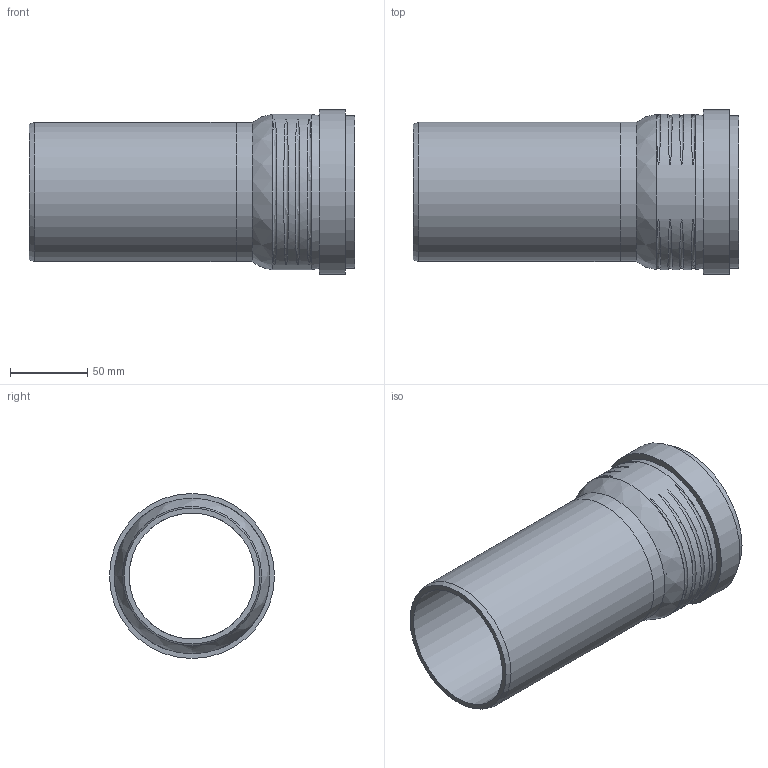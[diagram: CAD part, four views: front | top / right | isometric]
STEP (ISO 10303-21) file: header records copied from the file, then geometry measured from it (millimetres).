
FILE_DESCRIPTION(/* description */ (''),/* implementation_level */ '2;1');
FILE_NAME(/* name */ 'H:\Geberit-Teile\Export\PP_Rohr\stp\393400.stp',/* time_stamp */ '2017-02-13T16:06:56+01:00',/* author */ ('seihe2'),/* organization */ (''),/* preprocessor_version */ 'ST-DEVELOPER v15.2',/* originating_system */ 'Autodesk Inventor 2014',/* authorisation */ '');
FILE_SCHEMA (('AUTOMOTIVE_DESIGN { 1 0 10303 214 3 1 1 }'));
Length unit declared in the file: millimetre
Products named in the file (1): 393400
Bounding box: 211 x 107 x 107 mm (x, y, z)
Volume: 268132.1 mm3; surface area: 135825.7 mm2
Topology: 2 solids, 2 shells, 38 faces, 81 edges, 56 vertices
Faces by surface type: torus 17, cylinder 10, plane 8, cone 2, bspline 1
Full cylindrical faces by diameter (mm): 81.6 x2, 90.2 x2, 91 x1, 93 x1, 98.8 x1, 100 x1, 100.8 x1, 107 x1
Entity records: 2149 total; most frequent: CARTESIAN_POINT 1370, DIRECTION 130, ORIENTED_EDGE 124, EDGE_LOOP 69, AXIS2_PLACEMENT_3D 65, EDGE_CURVE 62, VERTEX_POINT 55, STYLED_ITEM 40
